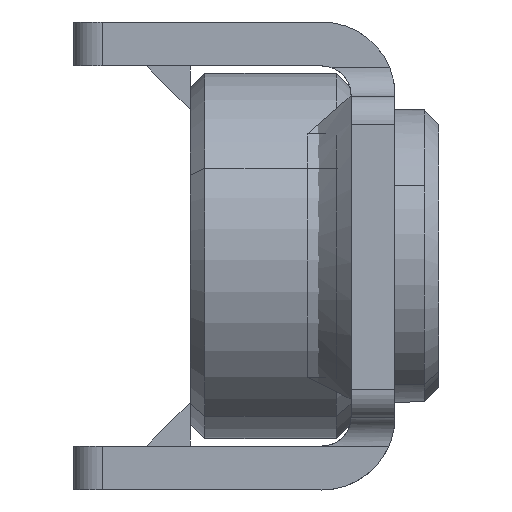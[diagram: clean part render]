
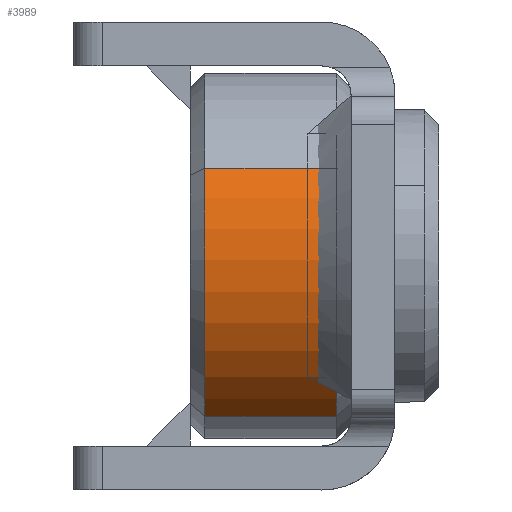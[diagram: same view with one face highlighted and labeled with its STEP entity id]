
A CAD part, left-side view. The second image highlights one B-rep face of the part: STEP entity #3989.
In plain terms, the highlighted cylindrical face has radius 12.5 mm (diameter 25 mm), a partial arc.
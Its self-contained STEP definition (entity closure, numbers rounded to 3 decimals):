
#3941=VECTOR('Line Direction',#3940,1.) ;
#3973=VECTOR('Line Direction',#3972,1.) ;
#3832=DIRECTION('Axis2P3D Direction',(0.,0.,1.)) ;
#3940=DIRECTION('Vector Direction',(0.,0.,1.)) ;
#3967=DIRECTION('Axis2P3D Direction',(0.,0.,1.)) ;
#3968=DIRECTION('Axis2P3D XDirection',(-0.479,0.878,0.)) ;
#3972=DIRECTION('Vector Direction',(0.,0.,1.)) ;
#3979=DIRECTION('Axis2P3D Direction',(0.,0.,1.)) ;
#3812=CARTESIAN_POINT('Vertex',(10.97,5.993,4.)) ;
#3828=CARTESIAN_POINT('Vertex',(5.993,-10.97,4.)) ;
#3831=CARTESIAN_POINT('Axis2P3D Location',(0.,0.,4.)) ;
#3939=CARTESIAN_POINT('Line Origine',(10.97,5.993,-0.5)) ;
#3943=CARTESIAN_POINT('Vertex',(10.97,5.993,-5.)) ;
#3966=CARTESIAN_POINT('Axis2P3D Location',(0.,0.,-1.5)) ;
#3971=CARTESIAN_POINT('Line Origine',(5.993,-10.97,-0.5)) ;
#3975=CARTESIAN_POINT('Vertex',(5.993,-10.97,-5.)) ;
#3978=CARTESIAN_POINT('Axis2P3D Location',(0.,0.,-5.)) ;
#3833=AXIS2_PLACEMENT_3D('Circle Axis2P3D',#3831,#3832,$) ;
#3969=AXIS2_PLACEMENT_3D('Cylinder Axis2P3D',#3966,#3967,#3968) ;
#3980=AXIS2_PLACEMENT_3D('Circle Axis2P3D',#3978,#3979,$) ;
#3835=EDGE_CURVE('',#3813,#3829,#3834,.F.) ;
#3945=EDGE_CURVE('',#3944,#3813,#3942,.T.) ;
#3977=EDGE_CURVE('',#3976,#3829,#3974,.T.) ;
#3982=EDGE_CURVE('',#3976,#3944,#3981,.T.) ;
#3984=ORIENTED_EDGE('',*,*,#3977,.F.) ;
#3985=ORIENTED_EDGE('',*,*,#3982,.T.) ;
#3986=ORIENTED_EDGE('',*,*,#3945,.T.) ;
#3987=ORIENTED_EDGE('',*,*,#3835,.T.) ;
#3942=LINE('Line',#3939,#3941) ;
#3974=LINE('Line',#3971,#3973) ;
#3989=ADVANCED_FACE('\X2\96F64EF651E04F554F53\X0\',(#3988),#3970,.T.) ;
#3834=CIRCLE('generated circle',#3833,12.5) ;
#3981=CIRCLE('generated circle',#3980,12.5) ;
#3970=CYLINDRICAL_SURFACE('generated cylinder',#3969,12.5) ;
#3813=VERTEX_POINT('',#3812) ;
#3829=VERTEX_POINT('',#3828) ;
#3944=VERTEX_POINT('',#3943) ;
#3976=VERTEX_POINT('',#3975) ;
#3983=EDGE_LOOP('',(#3984,#3985,#3986,#3987)) ;
#3988=FACE_OUTER_BOUND('',#3983,.T.) ;
